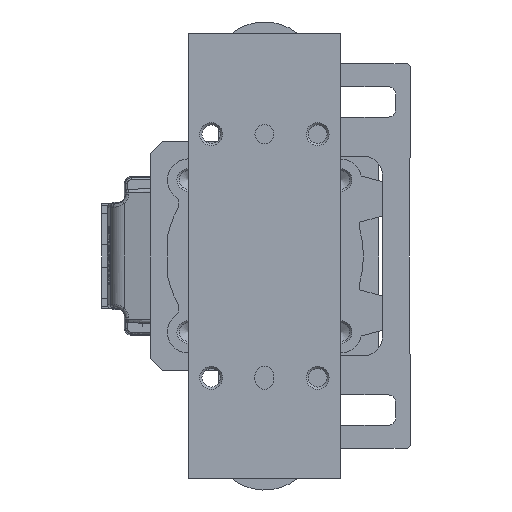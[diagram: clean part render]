
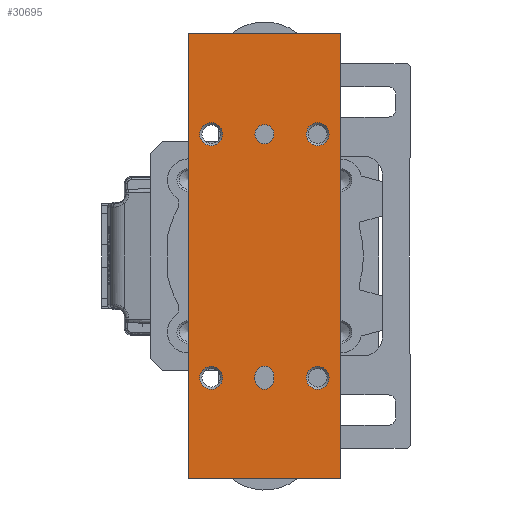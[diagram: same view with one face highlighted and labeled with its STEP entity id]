
A CAD part, left-side view. The second image highlights one B-rep face of the part: STEP entity #30695.
In plain terms, the highlighted planar face has unit normal (-1, 0, 0) as drawn and (0, 0, 1) by its records, which use the part's own axes.
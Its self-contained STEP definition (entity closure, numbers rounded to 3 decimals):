
#689 = VERTEX_POINT ( 'NONE', #13056 ) ;
#1229 = ORIENTED_EDGE ( 'NONE', *, *, #38026, .F. ) ;
#2920 = FACE_BOUND ( 'NONE', #16546, .T. ) ;
#3688 = VERTEX_POINT ( 'NONE', #27467 ) ;
#4381 = AXIS2_PLACEMENT_3D ( 'NONE', #24934, #33816, #38369 ) ;
#5128 = EDGE_CURVE ( 'NONE', #13443, #32247, #11120, .T. ) ;
#5240 = LINE ( 'NONE', #34557, #14327 ) ;
#5613 = AXIS2_PLACEMENT_3D ( 'NONE', #45508, #49531, #13277 ) ;
#6375 = ORIENTED_EDGE ( 'NONE', *, *, #11230, .T. ) ;
#7197 = PLANE ( 'NONE',  #44660 ) ;
#7728 = CARTESIAN_POINT ( 'NONE',  ( -31.5, -2.5, 28.5 ) ) ;
#9240 = EDGE_CURVE ( 'NONE', #689, #689, #32354, .T. ) ;
#10105 = CARTESIAN_POINT ( 'NONE',  ( -35., 14., 28.5 ) ) ;
#10127 = ORIENTED_EDGE ( 'NONE', *, *, #13127, .F. ) ;
#10521 = ORIENTED_EDGE ( 'NONE', *, *, #12316, .T. ) ;
#10580 = ORIENTED_EDGE ( 'NONE', *, *, #32830, .F. ) ;
#10671 = VECTOR ( 'NONE', #23877, 1000. ) ;
#10818 = EDGE_CURVE ( 'NONE', #32247, #20880, #5240, .T. ) ;
#11120 = LINE ( 'NONE', #22692, #35986 ) ;
#11230 = EDGE_CURVE ( 'NONE', #20880, #45196, #47782, .T. ) ;
#11236 = FACE_BOUND ( 'NONE', #39888, .T. ) ;
#11511 = CARTESIAN_POINT ( 'NONE',  ( -58.5, -20., 28.5 ) ) ;
#11521 = CARTESIAN_POINT ( 'NONE',  ( 58.5, -20., 28.5 ) ) ;
#11627 = EDGE_CURVE ( 'NONE', #3688, #30807, #19704, .T. ) ;
#12048 = CARTESIAN_POINT ( 'NONE',  ( -58.5, -20., 28.5 ) ) ;
#12316 = EDGE_CURVE ( 'NONE', #45196, #13443, #47507, .T. ) ;
#12713 = ORIENTED_EDGE ( 'NONE', *, *, #44568, .T. ) ;
#12718 = CARTESIAN_POINT ( 'NONE',  ( -35., -14., 28.5 ) ) ;
#13056 = CARTESIAN_POINT ( 'NONE',  ( 29., 14., 28.5 ) ) ;
#13127 = EDGE_CURVE ( 'NONE', #39178, #26624, #16928, .T. ) ;
#13277 = DIRECTION ( 'NONE',  ( -1., 0., 0. ) ) ;
#13443 = VERTEX_POINT ( 'NONE', #11521 ) ;
#14109 = VERTEX_POINT ( 'NONE', #10105 ) ;
#14327 = VECTOR ( 'NONE', #42041, 1000. ) ;
#14446 = FACE_OUTER_BOUND ( 'NONE', #14849, .T. ) ;
#14641 = DIRECTION ( 'NONE',  ( 0., 0., 1. ) ) ;
#14849 = EDGE_LOOP ( 'NONE', ( #26695, #27376, #6375, #10521 ) ) ;
#15223 = FACE_BOUND ( 'NONE', #51786, .T. ) ;
#15493 = CARTESIAN_POINT ( 'NONE',  ( 0., 0., 28.5 ) ) ;
#16171 = EDGE_CURVE ( 'NONE', #30807, #39178, #33528, .T. ) ;
#16546 = EDGE_LOOP ( 'NONE', ( #1229, #10127, #51456, #29184 ) ) ;
#16928 = LINE ( 'NONE', #32825, #38940 ) ;
#17199 = EDGE_CURVE ( 'NONE', #14109, #14109, #31956, .T. ) ;
#17204 = AXIS2_PLACEMENT_3D ( 'NONE', #35599, #51950, #36372 ) ;
#17507 = EDGE_LOOP ( 'NONE', ( #50219 ) ) ;
#18515 = CIRCLE ( 'NONE', #5613, 3. ) ;
#19093 = DIRECTION ( 'NONE',  ( 0., -1., 0. ) ) ;
#19547 = DIRECTION ( 'NONE',  ( 0., 0., -1. ) ) ;
#19704 = LINE ( 'NONE', #28041, #32926 ) ;
#19956 = CARTESIAN_POINT ( 'NONE',  ( 58.5, 20., 28.5 ) ) ;
#20534 = ORIENTED_EDGE ( 'NONE', *, *, #17199, .T. ) ;
#20880 = VERTEX_POINT ( 'NONE', #37919 ) ;
#21231 = EDGE_CURVE ( 'NONE', #23529, #23529, #50700, .T. ) ;
#21565 = CARTESIAN_POINT ( 'NONE',  ( 32., 14., 28.5 ) ) ;
#22692 = CARTESIAN_POINT ( 'NONE',  ( 58.5, -20., 28.5 ) ) ;
#23529 = VERTEX_POINT ( 'NONE', #39373 ) ;
#23877 = DIRECTION ( 'NONE',  ( 1., 0., 0. ) ) ;
#24934 = CARTESIAN_POINT ( 'NONE',  ( 32., -14., 28.5 ) ) ;
#25045 = ORIENTED_EDGE ( 'NONE', *, *, #9240, .T. ) ;
#25526 = DIRECTION ( 'NONE',  ( -1., 0., 0. ) ) ;
#25927 = CARTESIAN_POINT ( 'NONE',  ( -31.5, 2.5, 28.5 ) ) ;
#26624 = VERTEX_POINT ( 'NONE', #38500 ) ;
#26695 = ORIENTED_EDGE ( 'NONE', *, *, #5128, .T. ) ;
#27376 = ORIENTED_EDGE ( 'NONE', *, *, #10818, .T. ) ;
#27467 = CARTESIAN_POINT ( 'NONE',  ( -32.5, -2.5, 28.5 ) ) ;
#27524 = DIRECTION ( 'NONE',  ( 1., 0., 0. ) ) ;
#28041 = CARTESIAN_POINT ( 'NONE',  ( -32.5, -2.5, 28.5 ) ) ;
#28823 = DIRECTION ( 'NONE',  ( 0., 0., -1. ) ) ;
#29184 = ORIENTED_EDGE ( 'NONE', *, *, #11627, .F. ) ;
#30695 = ADVANCED_FACE ( 'NONE', ( #11236, #47743, #34911, #35172, #15223, #14446, #2920 ), #7197, .F. ) ;
#30807 = VERTEX_POINT ( 'NONE', #7728 ) ;
#31152 = DIRECTION ( 'NONE',  ( -1., 0., 0. ) ) ;
#31874 = CARTESIAN_POINT ( 'NONE',  ( 34.5, 0., 28.5 ) ) ;
#31956 = CIRCLE ( 'NONE', #40465, 3. ) ;
#31994 = CARTESIAN_POINT ( 'NONE',  ( -58.5, -20., 28.5 ) ) ;
#32247 = VERTEX_POINT ( 'NONE', #19956 ) ;
#32354 = CIRCLE ( 'NONE', #48586, 3. ) ;
#32744 = CIRCLE ( 'NONE', #39599, 2.5 ) ;
#32825 = CARTESIAN_POINT ( 'NONE',  ( -32.5, 2.5, 28.5 ) ) ;
#32830 = EDGE_CURVE ( 'NONE', #53045, #53045, #32744, .T. ) ;
#32872 = CARTESIAN_POINT ( 'NONE',  ( -32., 14., 28.5 ) ) ;
#32926 = VECTOR ( 'NONE', #27524, 1000. ) ;
#33528 = CIRCLE ( 'NONE', #17204, 2.5 ) ;
#33816 = DIRECTION ( 'NONE',  ( 0., 0., -1. ) ) ;
#34557 = CARTESIAN_POINT ( 'NONE',  ( -58.5, 20., 28.5 ) ) ;
#34911 = FACE_BOUND ( 'NONE', #47126, .T. ) ;
#35172 = FACE_BOUND ( 'NONE', #41930, .T. ) ;
#35454 = CARTESIAN_POINT ( 'NONE',  ( -32.5, 0., 28.5 ) ) ;
#35599 = CARTESIAN_POINT ( 'NONE',  ( -31.5, 0., 28.5 ) ) ;
#35986 = VECTOR ( 'NONE', #46835, 1000. ) ;
#36372 = DIRECTION ( 'NONE',  ( 1., 0., 0. ) ) ;
#36843 = AXIS2_PLACEMENT_3D ( 'NONE', #35454, #52078, #40229 ) ;
#37919 = CARTESIAN_POINT ( 'NONE',  ( -58.5, 20., 28.5 ) ) ;
#38026 = EDGE_CURVE ( 'NONE', #26624, #3688, #46230, .T. ) ;
#38369 = DIRECTION ( 'NONE',  ( -1., 0., 0. ) ) ;
#38500 = CARTESIAN_POINT ( 'NONE',  ( -32.5, 2.5, 28.5 ) ) ;
#38940 = VECTOR ( 'NONE', #25526, 1000. ) ;
#39124 = CARTESIAN_POINT ( 'NONE',  ( 32., 0., 28.5 ) ) ;
#39178 = VERTEX_POINT ( 'NONE', #25927 ) ;
#39373 = CARTESIAN_POINT ( 'NONE',  ( 29., -14., 28.5 ) ) ;
#39599 = AXIS2_PLACEMENT_3D ( 'NONE', #39124, #14641, #51738 ) ;
#39888 = EDGE_LOOP ( 'NONE', ( #25045 ) ) ;
#40229 = DIRECTION ( 'NONE',  ( 1., 0., 0. ) ) ;
#40465 = AXIS2_PLACEMENT_3D ( 'NONE', #32872, #28823, #41161 ) ;
#41161 = DIRECTION ( 'NONE',  ( -1., 0., 0. ) ) ;
#41729 = VERTEX_POINT ( 'NONE', #12718 ) ;
#41930 = EDGE_LOOP ( 'NONE', ( #20534 ) ) ;
#42041 = DIRECTION ( 'NONE',  ( -1., 0., 0. ) ) ;
#42491 = DIRECTION ( 'NONE',  ( -1., 0., 0. ) ) ;
#44568 = EDGE_CURVE ( 'NONE', #41729, #41729, #18515, .T. ) ;
#44660 = AXIS2_PLACEMENT_3D ( 'NONE', #15493, #19547, #31152 ) ;
#45196 = VERTEX_POINT ( 'NONE', #12048 ) ;
#45508 = CARTESIAN_POINT ( 'NONE',  ( -32., -14., 28.5 ) ) ;
#45959 = VECTOR ( 'NONE', #19093, 1000. ) ;
#46221 = DIRECTION ( 'NONE',  ( 0., 0., -1. ) ) ;
#46230 = CIRCLE ( 'NONE', #36843, 2.5 ) ;
#46835 = DIRECTION ( 'NONE',  ( 0., 1., 0. ) ) ;
#47126 = EDGE_LOOP ( 'NONE', ( #12713 ) ) ;
#47507 = LINE ( 'NONE', #11511, #10671 ) ;
#47743 = FACE_BOUND ( 'NONE', #17507, .T. ) ;
#47782 = LINE ( 'NONE', #31994, #45959 ) ;
#48586 = AXIS2_PLACEMENT_3D ( 'NONE', #21565, #46221, #42491 ) ;
#49531 = DIRECTION ( 'NONE',  ( 0., 0., -1. ) ) ;
#50219 = ORIENTED_EDGE ( 'NONE', *, *, #21231, .T. ) ;
#50700 = CIRCLE ( 'NONE', #4381, 3. ) ;
#51456 = ORIENTED_EDGE ( 'NONE', *, *, #16171, .F. ) ;
#51738 = DIRECTION ( 'NONE',  ( 1., 0., 0. ) ) ;
#51786 = EDGE_LOOP ( 'NONE', ( #10580 ) ) ;
#51950 = DIRECTION ( 'NONE',  ( 0., 0., 1. ) ) ;
#52078 = DIRECTION ( 'NONE',  ( 0., 0., 1. ) ) ;
#53045 = VERTEX_POINT ( 'NONE', #31874 ) ;
